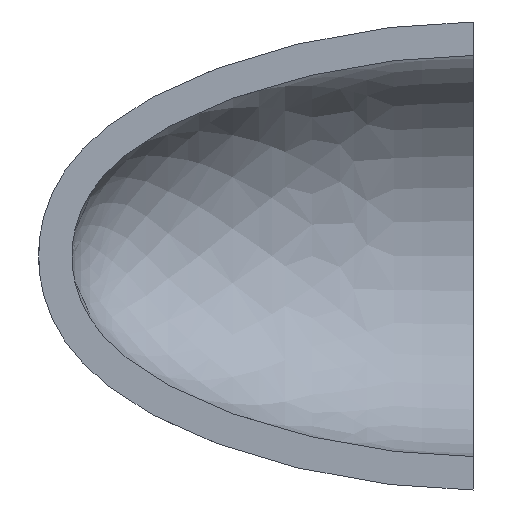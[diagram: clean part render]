
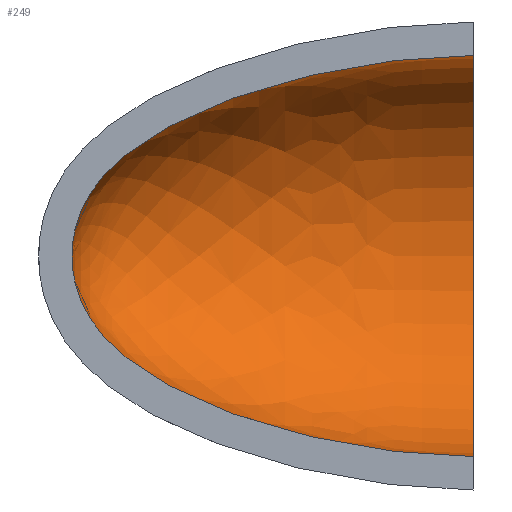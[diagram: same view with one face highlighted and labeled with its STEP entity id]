
A CAD part, left-side view. The second image highlights one B-rep face of the part: STEP entity #249.
In plain terms, the highlighted face is a revolution surface.
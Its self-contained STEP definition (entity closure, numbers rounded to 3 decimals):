
#100=CARTESIAN_POINT('Axis2P3D Location',(0.,0.,0.)) ;
#104=CARTESIAN_POINT('Vertex',(0.,0.,60.)) ;
#106=CARTESIAN_POINT('Vertex',(0.,0.,-60.)) ;
#132=CARTESIAN_POINT('Control Point',(0.,0.,-60.)) ;
#133=CARTESIAN_POINT('Control Point',(0.,2.153,-60.)) ;
#134=CARTESIAN_POINT('Control Point',(0.,4.33,-59.964)) ;
#135=CARTESIAN_POINT('Control Point',(0.,6.529,-59.892)) ;
#136=CARTESIAN_POINT('Control Point',(0.,12.364,-59.614)) ;
#137=CARTESIAN_POINT('Control Point',(0.,18.321,-59.106)) ;
#138=CARTESIAN_POINT('Control Point',(0.,22.051,-58.707)) ;
#139=CARTESIAN_POINT('Control Point',(0.,30.012,-57.688)) ;
#140=CARTESIAN_POINT('Control Point',(0.,38.052,-56.308)) ;
#141=CARTESIAN_POINT('Control Point',(0.,42.307,-55.481)) ;
#142=CARTESIAN_POINT('Control Point',(0.,50.324,-53.733)) ;
#143=CARTESIAN_POINT('Control Point',(0.,58.277,-51.624)) ;
#144=CARTESIAN_POINT('Control Point',(0.,61.988,-50.551)) ;
#145=CARTESIAN_POINT('Control Point',(0.,70.927,-47.737)) ;
#146=CARTESIAN_POINT('Control Point',(0.,79.576,-44.395)) ;
#147=CARTESIAN_POINT('Control Point',(0.,84.531,-42.23)) ;
#148=CARTESIAN_POINT('Control Point',(0.,91.456,-38.769)) ;
#149=CARTESIAN_POINT('Control Point',(0.,97.789,-34.825)) ;
#150=CARTESIAN_POINT('Control Point',(0.,99.705,-33.541)) ;
#151=CARTESIAN_POINT('Control Point',(0.,103.166,-31.035)) ;
#152=CARTESIAN_POINT('Control Point',(0.,106.323,-28.357)) ;
#153=CARTESIAN_POINT('Control Point',(0.,107.728,-27.065)) ;
#154=CARTESIAN_POINT('Control Point',(0.,110.271,-24.512)) ;
#155=CARTESIAN_POINT('Control Point',(0.,112.49,-21.83)) ;
#156=CARTESIAN_POINT('Control Point',(0.,113.476,-20.515)) ;
#157=CARTESIAN_POINT('Control Point',(0.,115.034,-18.195)) ;
#158=CARTESIAN_POINT('Control Point',(0.,116.34,-15.791)) ;
#159=CARTESIAN_POINT('Control Point',(0.,116.843,-14.764)) ;
#160=CARTESIAN_POINT('Control Point',(0.,117.903,-12.353)) ;
#161=CARTESIAN_POINT('Control Point',(0.,118.715,-9.854)) ;
#162=CARTESIAN_POINT('Control Point',(0.,119.096,-8.404)) ;
#163=CARTESIAN_POINT('Control Point',(0.,119.606,-5.896)) ;
#164=CARTESIAN_POINT('Control Point',(0.,119.886,-3.292)) ;
#165=CARTESIAN_POINT('Control Point',(0.,119.962,-2.21)) ;
#166=CARTESIAN_POINT('Control Point',(0.,120.,-1.113)) ;
#167=CARTESIAN_POINT('Control Point',(0.,120.,0.)) ;
#168=CARTESIAN_POINT('Vertex',(0.,120.,0.)) ;
#172=CARTESIAN_POINT('Control Point',(0.,0.,60.)) ;
#173=CARTESIAN_POINT('Control Point',(0.,2.153,60.)) ;
#174=CARTESIAN_POINT('Control Point',(0.,4.33,59.964)) ;
#175=CARTESIAN_POINT('Control Point',(0.,6.529,59.892)) ;
#176=CARTESIAN_POINT('Control Point',(0.,12.364,59.614)) ;
#177=CARTESIAN_POINT('Control Point',(0.,18.321,59.106)) ;
#178=CARTESIAN_POINT('Control Point',(0.,22.051,58.707)) ;
#179=CARTESIAN_POINT('Control Point',(0.,30.012,57.688)) ;
#180=CARTESIAN_POINT('Control Point',(0.,38.052,56.308)) ;
#181=CARTESIAN_POINT('Control Point',(0.,42.307,55.481)) ;
#182=CARTESIAN_POINT('Control Point',(0.,50.324,53.733)) ;
#183=CARTESIAN_POINT('Control Point',(0.,58.277,51.624)) ;
#184=CARTESIAN_POINT('Control Point',(0.,61.988,50.551)) ;
#185=CARTESIAN_POINT('Control Point',(0.,70.927,47.737)) ;
#186=CARTESIAN_POINT('Control Point',(0.,79.576,44.395)) ;
#187=CARTESIAN_POINT('Control Point',(0.,84.531,42.23)) ;
#188=CARTESIAN_POINT('Control Point',(0.,91.456,38.769)) ;
#189=CARTESIAN_POINT('Control Point',(0.,97.789,34.825)) ;
#190=CARTESIAN_POINT('Control Point',(0.,99.705,33.541)) ;
#191=CARTESIAN_POINT('Control Point',(0.,103.166,31.035)) ;
#192=CARTESIAN_POINT('Control Point',(0.,106.323,28.357)) ;
#193=CARTESIAN_POINT('Control Point',(0.,107.728,27.065)) ;
#194=CARTESIAN_POINT('Control Point',(0.,110.271,24.512)) ;
#195=CARTESIAN_POINT('Control Point',(0.,112.49,21.83)) ;
#196=CARTESIAN_POINT('Control Point',(0.,113.476,20.515)) ;
#197=CARTESIAN_POINT('Control Point',(0.,115.034,18.195)) ;
#198=CARTESIAN_POINT('Control Point',(0.,116.34,15.791)) ;
#199=CARTESIAN_POINT('Control Point',(0.,116.843,14.764)) ;
#200=CARTESIAN_POINT('Control Point',(0.,117.903,12.353)) ;
#201=CARTESIAN_POINT('Control Point',(0.,118.715,9.854)) ;
#202=CARTESIAN_POINT('Control Point',(0.,119.096,8.404)) ;
#203=CARTESIAN_POINT('Control Point',(0.,119.606,5.896)) ;
#204=CARTESIAN_POINT('Control Point',(0.,119.886,3.292)) ;
#205=CARTESIAN_POINT('Control Point',(0.,119.962,2.21)) ;
#206=CARTESIAN_POINT('Control Point',(0.,120.,1.113)) ;
#207=CARTESIAN_POINT('Control Point',(0.,120.,0.)) ;
#219=CARTESIAN_POINT('Control Point',(0.,0.,60.)) ;
#220=CARTESIAN_POINT('Control Point',(0.,6.947,60.)) ;
#221=CARTESIAN_POINT('Control Point',(0.,14.36,59.622)) ;
#222=CARTESIAN_POINT('Control Point',(0.,22.226,58.855)) ;
#223=CARTESIAN_POINT('Control Point',(0.,38.596,56.526)) ;
#224=CARTESIAN_POINT('Control Point',(0.,55.502,52.584)) ;
#225=CARTESIAN_POINT('Control Point',(0.,63.904,50.206)) ;
#226=CARTESIAN_POINT('Control Point',(0.,76.068,46.019)) ;
#227=CARTESIAN_POINT('Control Point',(0.,87.022,40.96)) ;
#228=CARTESIAN_POINT('Control Point',(0.,90.508,39.179)) ;
#229=CARTESIAN_POINT('Control Point',(0.,97.091,35.441)) ;
#230=CARTESIAN_POINT('Control Point',(0.,102.789,31.382)) ;
#231=CARTESIAN_POINT('Control Point',(0.,105.392,29.281)) ;
#232=CARTESIAN_POINT('Control Point',(0.,110.064,24.96)) ;
#233=CARTESIAN_POINT('Control Point',(0.,113.656,20.432)) ;
#234=CARTESIAN_POINT('Control Point',(0.,115.176,18.124)) ;
#235=CARTESIAN_POINT('Control Point',(0.,117.696,13.409)) ;
#236=CARTESIAN_POINT('Control Point',(0.,119.213,8.376)) ;
#237=CARTESIAN_POINT('Control Point',(0.,119.731,5.75)) ;
#238=CARTESIAN_POINT('Control Point',(0.,120.,2.966)) ;
#239=CARTESIAN_POINT('Control Point',(0.,120.,0.)) ;
#240=CARTESIAN_POINT('Axis1P Location',(0.,0.,0.)) ;
#101=DIRECTION('Axis2P3D Direction',(0.,1.,0.)) ;
#241=DIRECTION('Axis1P Direction',(0.,1.,0.)) ;
#102=AXIS2_PLACEMENT_3D('Circle Axis2P3D',#100,#101,$) ;
#245=ORIENTED_EDGE('',*,*,#108,.F.) ;
#246=ORIENTED_EDGE('',*,*,#208,.T.) ;
#247=ORIENTED_EDGE('',*,*,#170,.F.) ;
#249=ADVANCED_FACE('PartBody',(#248),#243,.F.) ;
#242=AXIS1_PLACEMENT('Revolution Surface Axis1P',#240,#241) ;
#131=B_SPLINE_CURVE_WITH_KNOTS('',5,(#132,#133,#134,#135,#136,#137,#138,#139,#140,#141,#142,#143,#144,#145,#146,#147,#148,#149,#150,#151,#152,#153,#154,#155,#156,#157,#158,#159,#160,#161,#162,#163,#164,#165,#166,#167),.UNSPECIFIED.,.F.,.U.,(6,3,3,3,3,3,3,3,3,3,3,6),(0.,15.708,41.324,69.998,95.405,131.767,148.339,162.929,176.379,186.157,199.002,207.887),.UNSPECIFIED.) ;
#171=B_SPLINE_CURVE_WITH_KNOTS('',5,(#172,#173,#174,#175,#176,#177,#178,#179,#180,#181,#182,#183,#184,#185,#186,#187,#188,#189,#190,#191,#192,#193,#194,#195,#196,#197,#198,#199,#200,#201,#202,#203,#204,#205,#206,#207),.UNSPECIFIED.,.F.,.U.,(6,3,3,3,3,3,3,3,3,3,3,6),(0.,15.708,41.324,69.998,95.405,131.767,148.339,162.929,176.379,186.157,199.002,207.887),.UNSPECIFIED.) ;
#218=B_SPLINE_CURVE_WITH_KNOTS('',5,(#219,#220,#221,#222,#223,#224,#225,#226,#227,#228,#229,#230,#231,#232,#233,#234,#235,#236,#237,#238,#239),.UNSPECIFIED.,.F.,.U.,(6,3,3,3,3,3,6),(0.,36.912,73.824,92.28,110.736,129.192,147.648),.UNSPECIFIED.) ;
#103=CIRCLE('generated circle',#102,60.) ;
#108=EDGE_CURVE('',#105,#107,#103,.T.) ;
#170=EDGE_CURVE('',#107,#169,#131,.T.) ;
#208=EDGE_CURVE('',#105,#169,#171,.T.) ;
#244=EDGE_LOOP('',(#245,#246,#247)) ;
#248=FACE_OUTER_BOUND('',#244,.T.) ;
#243=SURFACE_OF_REVOLUTION('Surface of Revolution',#218,#242) ;
#105=VERTEX_POINT('',#104) ;
#107=VERTEX_POINT('',#106) ;
#169=VERTEX_POINT('',#168) ;
